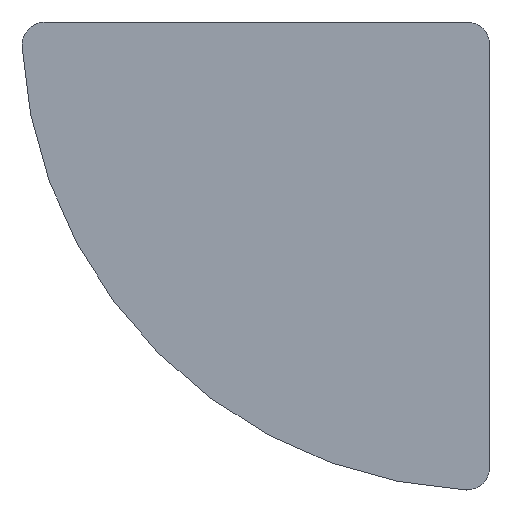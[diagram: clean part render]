
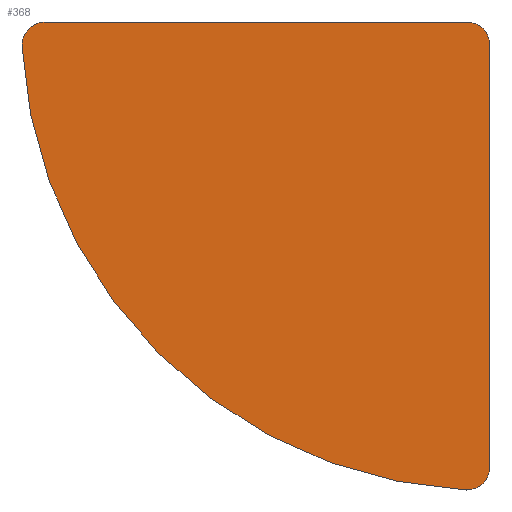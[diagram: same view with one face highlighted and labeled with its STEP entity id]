
A CAD part, front view. The second image highlights one B-rep face of the part: STEP entity #368.
In plain terms, the highlighted planar face has unit normal (0, -1, 0).
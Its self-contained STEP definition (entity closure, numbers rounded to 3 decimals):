
#21 = DIRECTION ( 'NONE',  ( 0., -1., 0. ) ) ;
#45 = DIRECTION ( 'NONE',  ( 0., 0., 1. ) ) ;
#123 = ORIENTED_EDGE ( 'NONE', *, *, #679, .F. ) ;
#135 = CIRCLE ( 'NONE', #698, 2. ) ;
#142 = DIRECTION ( 'NONE',  ( 0., 1., 0. ) ) ;
#196 = EDGE_CURVE ( 'NONE', #1318, #805, #1166, .T. ) ;
#210 = AXIS2_PLACEMENT_3D ( 'NONE', #635, #21, #738 ) ;
#221 = VECTOR ( 'NONE', #1075, 1000. ) ;
#241 = CARTESIAN_POINT ( 'NONE',  ( 0., 0., 15.546 ) ) ;
#258 = CARTESIAN_POINT ( 'NONE',  ( -5.666, 0., -22.401 ) ) ;
#262 = CARTESIAN_POINT ( 'NONE',  ( -43.611, 0., 13.441 ) ) ;
#293 = VERTEX_POINT ( 'NONE', #996 ) ;
#298 = VERTEX_POINT ( 'NONE', #365 ) ;
#318 = ORIENTED_EDGE ( 'NONE', *, *, #1283, .F. ) ;
#325 = EDGE_LOOP ( 'NONE', ( #471, #318, #1007, #632, #474, #123, #534 ) ) ;
#358 = DIRECTION ( 'NONE',  ( 0., 0., 1. ) ) ;
#365 = CARTESIAN_POINT ( 'NONE',  ( -3.666, 0., 13.546 ) ) ;
#368 = ADVANCED_FACE ( 'NONE', ( #696 ), #378, .F. ) ;
#378 = PLANE ( 'NONE',  #650 ) ;
#471 = ORIENTED_EDGE ( 'NONE', *, *, #1164, .T. ) ;
#474 = ORIENTED_EDGE ( 'NONE', *, *, #569, .T. ) ;
#478 = DIRECTION ( 'NONE',  ( 0., 0., 1. ) ) ;
#515 = VERTEX_POINT ( 'NONE', #1249 ) ;
#534 = ORIENTED_EDGE ( 'NONE', *, *, #196, .F. ) ;
#547 = AXIS2_PLACEMENT_3D ( 'NONE', #752, #142, #860 ) ;
#555 = DIRECTION ( 'NONE',  ( 0., -1., 0. ) ) ;
#569 = EDGE_CURVE ( 'NONE', #865, #845, #776, .T. ) ;
#608 = CIRCLE ( 'NONE', #619, 2. ) ;
#619 = AXIS2_PLACEMENT_3D ( 'NONE', #1180, #555, #1282 ) ;
#621 = CARTESIAN_POINT ( 'NONE',  ( -3.666, 0., 0. ) ) ;
#624 = DIRECTION ( 'NONE',  ( 0., 0., 1. ) ) ;
#632 = ORIENTED_EDGE ( 'NONE', *, *, #1337, .T. ) ;
#635 = CARTESIAN_POINT ( 'NONE',  ( -3.666, 0., 15.546 ) ) ;
#650 = AXIS2_PLACEMENT_3D ( 'NONE', #791, #1110, #478 ) ;
#658 = DIRECTION ( 'NONE',  ( 0., 1., 0. ) ) ;
#679 = EDGE_CURVE ( 'NONE', #805, #845, #135, .T. ) ;
#696 = FACE_OUTER_BOUND ( 'NONE', #325, .T. ) ;
#698 = AXIS2_PLACEMENT_3D ( 'NONE', #258, #989, #358 ) ;
#738 = DIRECTION ( 'NONE',  ( 0., 0., 1. ) ) ;
#752 = CARTESIAN_POINT ( 'NONE',  ( -5.666, 0., 13.546 ) ) ;
#753 = EDGE_CURVE ( 'NONE', #515, #293, #995, .T. ) ;
#772 = VECTOR ( 'NONE', #624, 1000. ) ;
#776 = CIRCLE ( 'NONE', #210, 40. ) ;
#791 = CARTESIAN_POINT ( 'NONE',  ( 0., 0., 0. ) ) ;
#805 = VERTEX_POINT ( 'NONE', #877 ) ;
#845 = VERTEX_POINT ( 'NONE', #882 ) ;
#860 = DIRECTION ( 'NONE',  ( 0., 0., 1. ) ) ;
#865 = VERTEX_POINT ( 'NONE', #262 ) ;
#877 = CARTESIAN_POINT ( 'NONE',  ( -5.666, 0., -24.401 ) ) ;
#882 = CARTESIAN_POINT ( 'NONE',  ( -5.772, 0., -24.399 ) ) ;
#894 = AXIS2_PLACEMENT_3D ( 'NONE', #1278, #658, #45 ) ;
#922 = CIRCLE ( 'NONE', #547, 2. ) ;
#989 = DIRECTION ( 'NONE',  ( 0., 1., 0. ) ) ;
#995 = LINE ( 'NONE', #241, #221 ) ;
#996 = CARTESIAN_POINT ( 'NONE',  ( -5.666, 0., 15.546 ) ) ;
#1007 = ORIENTED_EDGE ( 'NONE', *, *, #753, .F. ) ;
#1054 = LINE ( 'NONE', #621, #772 ) ;
#1075 = DIRECTION ( 'NONE',  ( 1., 0., 0. ) ) ;
#1110 = DIRECTION ( 'NONE',  ( 0., 1., 0. ) ) ;
#1164 = EDGE_CURVE ( 'NONE', #1318, #298, #1054, .T. ) ;
#1166 = CIRCLE ( 'NONE', #894, 2. ) ;
#1175 = CARTESIAN_POINT ( 'NONE',  ( -3.666, 0., -22.401 ) ) ;
#1180 = CARTESIAN_POINT ( 'NONE',  ( -41.614, 0., 13.546 ) ) ;
#1249 = CARTESIAN_POINT ( 'NONE',  ( -41.614, 0., 15.546 ) ) ;
#1278 = CARTESIAN_POINT ( 'NONE',  ( -5.666, 0., -22.401 ) ) ;
#1282 = DIRECTION ( 'NONE',  ( 0., 0., 1. ) ) ;
#1283 = EDGE_CURVE ( 'NONE', #293, #298, #922, .T. ) ;
#1318 = VERTEX_POINT ( 'NONE', #1175 ) ;
#1337 = EDGE_CURVE ( 'NONE', #515, #865, #608, .T. ) ;
